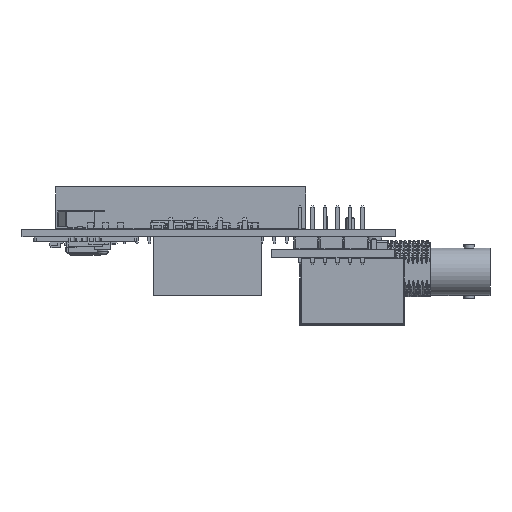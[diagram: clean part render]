
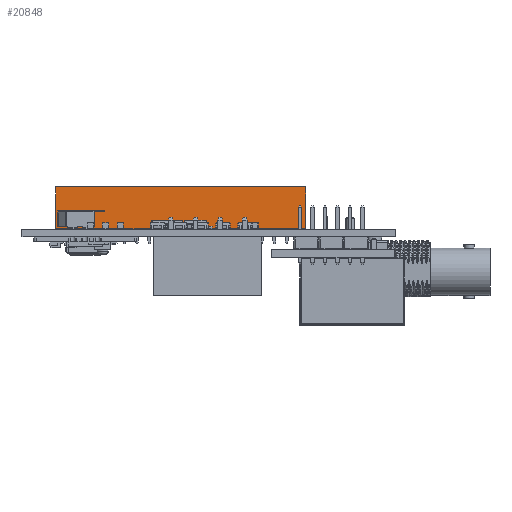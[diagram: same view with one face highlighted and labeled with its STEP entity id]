
A CAD part, left-side view. The second image highlights one B-rep face of the part: STEP entity #20848.
In plain terms, the highlighted planar face has unit normal (-1, 0, 0) as drawn and (1, 0, 0) by its records, which use the part's own axes.
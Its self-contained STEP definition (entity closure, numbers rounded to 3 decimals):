
#20848 = ADVANCED_FACE('',(#20849),#20883,.F.);
#20849 = FACE_BOUND('',#20850,.F.);
#20850 = EDGE_LOOP('',(#20851,#20861,#20869,#20877));
#20851 = ORIENTED_EDGE('',*,*,#20852,.T.);
#20852 = EDGE_CURVE('',#20853,#20855,#20857,.T.);
#20853 = VERTEX_POINT('',#20854);
#20854 = CARTESIAN_POINT('',(1.27,-49.53,0.));
#20855 = VERTEX_POINT('',#20856);
#20856 = CARTESIAN_POINT('',(1.27,-49.53,8.5));
#20857 = LINE('',#20858,#20859);
#20858 = CARTESIAN_POINT('',(1.27,-49.53,0.));
#20859 = VECTOR('',#20860,1.);
#20860 = DIRECTION('',(0.,0.,1.));
#20861 = ORIENTED_EDGE('',*,*,#20862,.T.);
#20862 = EDGE_CURVE('',#20855,#20863,#20865,.T.);
#20863 = VERTEX_POINT('',#20864);
#20864 = CARTESIAN_POINT('',(1.27,1.27,8.5));
#20865 = LINE('',#20866,#20867);
#20866 = CARTESIAN_POINT('',(1.27,-49.53,8.5));
#20867 = VECTOR('',#20868,1.);
#20868 = DIRECTION('',(0.,1.,0.));
#20869 = ORIENTED_EDGE('',*,*,#20870,.F.);
#20870 = EDGE_CURVE('',#20871,#20863,#20873,.T.);
#20871 = VERTEX_POINT('',#20872);
#20872 = CARTESIAN_POINT('',(1.27,1.27,0.));
#20873 = LINE('',#20874,#20875);
#20874 = CARTESIAN_POINT('',(1.27,1.27,0.));
#20875 = VECTOR('',#20876,1.);
#20876 = DIRECTION('',(0.,0.,1.));
#20877 = ORIENTED_EDGE('',*,*,#20878,.F.);
#20878 = EDGE_CURVE('',#20853,#20871,#20879,.T.);
#20879 = LINE('',#20880,#20881);
#20880 = CARTESIAN_POINT('',(1.27,-49.53,0.));
#20881 = VECTOR('',#20882,1.);
#20882 = DIRECTION('',(0.,1.,0.));
#20883 = PLANE('',#20884);
#20884 = AXIS2_PLACEMENT_3D('',#20885,#20886,#20887);
#20885 = CARTESIAN_POINT('',(1.27,-49.53,0.));
#20886 = DIRECTION('',(-1.,0.,0.));
#20887 = DIRECTION('',(0.,1.,0.));
